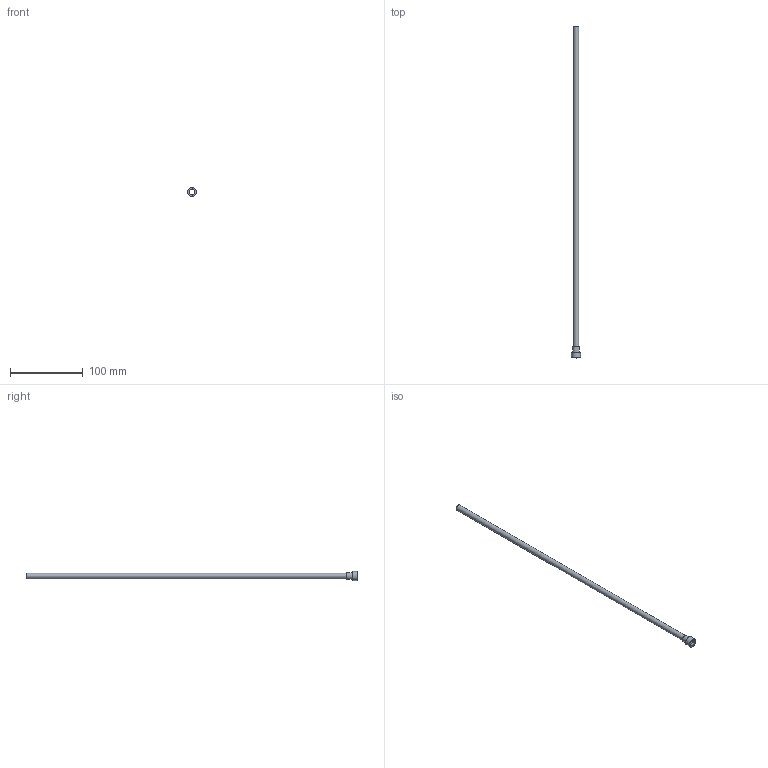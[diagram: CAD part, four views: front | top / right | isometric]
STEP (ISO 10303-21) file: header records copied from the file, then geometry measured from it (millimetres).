
FILE_DESCRIPTION(/* description */ (''),/* implementation_level */ '2;1');
FILE_NAME(/* name */ 'C:/Users/drich/Desktop/R312T-18 v1.step',/* time_stamp */ '2019-12-30T13:18:04-06:00',/* author */ (''),/* organization */ (''),/* preprocessor_version */ 'ST-DEVELOPER v18',/* originating_system */ 'Autodesk Translation Framework v8.12.0.6',/* authorisation */ '');
FILE_SCHEMA (('AUTOMOTIVE_DESIGN { 1 0 10303 214 3 1 1 }'));
Length unit declared in the file: inch
Products named in the file (1): R312T-18
Bounding box: 12.57 x 457.2 x 12.57 mm (x, y, z)
Volume: 4045 mm3; surface area: 22206.5 mm2
Topology: 1 solids, 1 shells, 19 faces, 47 edges, 33 vertices
Faces by surface type: plane 11, cylinder 4, torus 3, cone 1
Full cylindrical faces by diameter (mm): 7.315 x1, 7.925 x1, 9.434 x1, 12.573 x1
Entity records: 624 total; most frequent: DIRECTION 111, CARTESIAN_POINT 100, ORIENTED_EDGE 94, EDGE_CURVE 47, AXIS2_PLACEMENT_3D 44, VERTEX_POINT 33, EDGE_LOOP 24, CIRCLE 24
